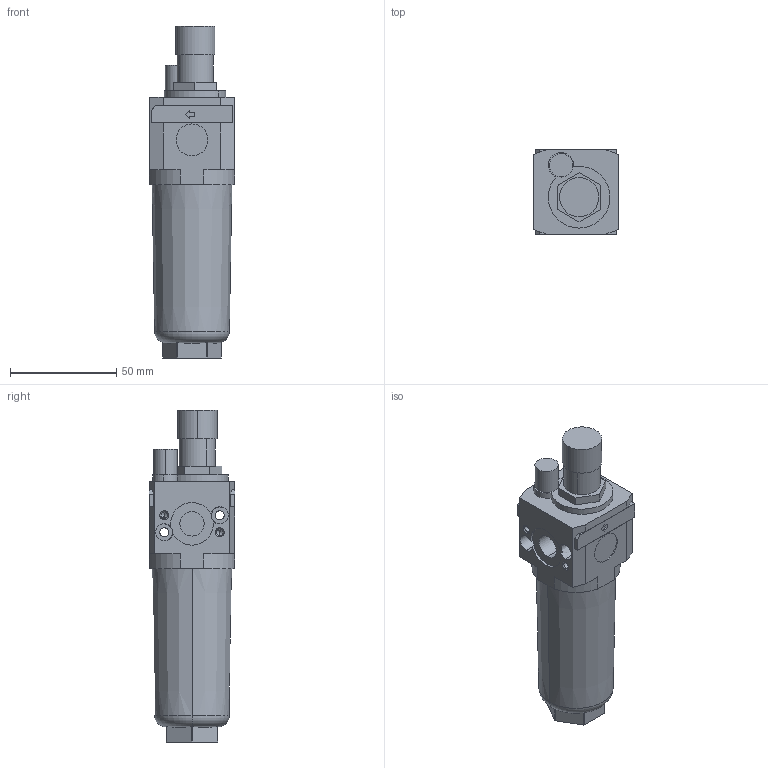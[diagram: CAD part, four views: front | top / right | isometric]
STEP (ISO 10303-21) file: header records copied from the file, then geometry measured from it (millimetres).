
FILE_DESCRIPTION((''),'2;1');
FILE_NAME('I:\DOC-EDP\Lib-3d\FRL\17103B_P.stp','2003-06-16T14:48:08',('maffial1'),(''),'Autodesk Inventor 7','Autodesk Inventor 7','');
FILE_SCHEMA(('AUTOMOTIVE_DESIGN { 1 0 10303 214 1 1 1 1 }'));
Length unit declared in the file: millimetre
Products named in the file (1): 17103B_P
Bounding box: 40 x 40 x 156 mm (x, y, z)
Volume: 147895.4 mm3; surface area: 26114.8 mm2
Topology: 1 solids, 3 shells, 165 faces, 408 edges, 260 vertices
Faces by surface type: plane 60, bspline 53, cylinder 40, cone 10, torus 2
Entity records: 5245 total; most frequent: CARTESIAN_POINT 1409, ORIENTED_EDGE 800, DIRECTION 754, EDGE_CURVE 400, VERTEX_POINT 260, VECTOR 260, LINE 260, AXIS2_PLACEMENT_3D 247
